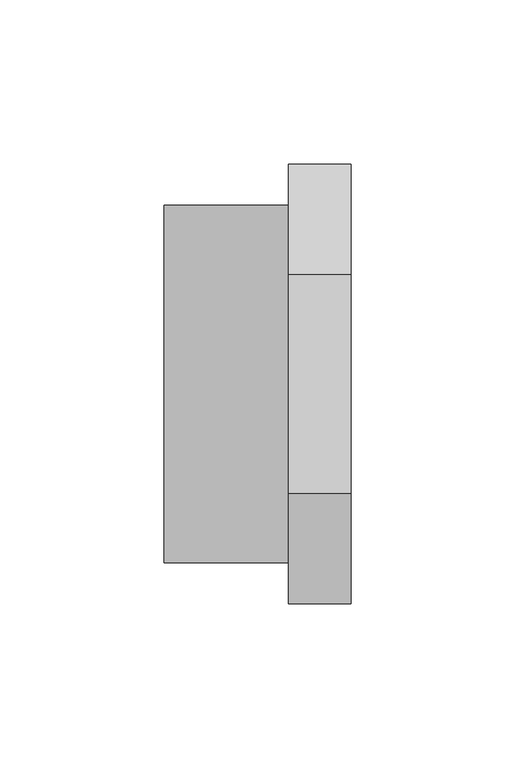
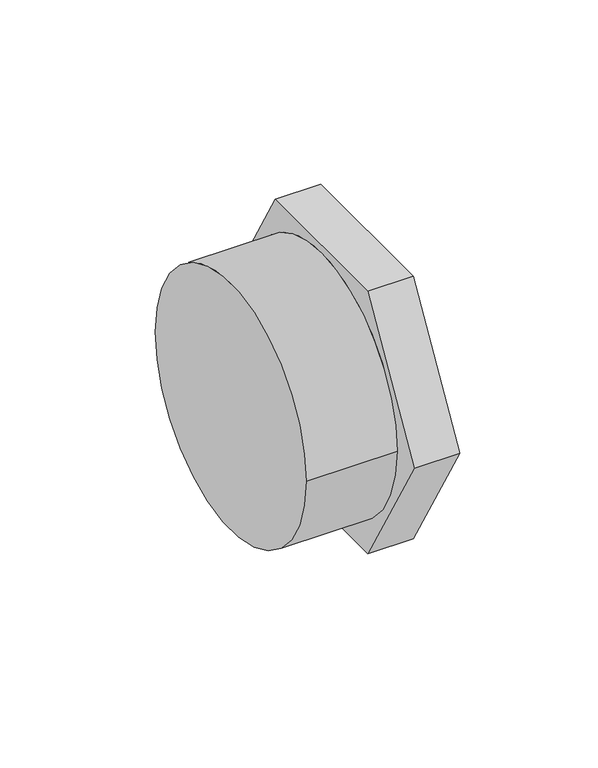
"""IFC4 building model written with IfcOpenShell, lengths in millimetres: pipe fitting geometry, 01011011 : Tampão M."""

from ifc_helpers import new_model, si_unit, point, frame, origin, origin_2d, place, context, project, spatial, circle_curve, trimmed, segment, composite_curve, outline, extrude, source, transform, mapped, element, save
from ifc_brep_helpers import plane_surface, cylinder_surface, advanced_brep


def pipe_fitting_90e61d89(model_context):
    return source(origin(), model_context, "Body", "SolidModel", [
        extrude(outline(composite_curve([segment(trimmed(circle_curve(origin_2d(), 54.525), [point((-54.525, 0.0))], [point((54.525, 0.0))], False, "CARTESIAN"), True, "CONTINUOUS"), segment(trimmed(circle_curve(origin_2d(), 54.525), [point((54.525, 0.0))], [point((-54.525, 0.0))], False, "CARTESIAN"), True, "CONTINUOUS")], self_intersect=False)), frame((0.0, 0.0, 0.0), z_axis=(1.0, 0.0, 0.0), x_axis=(0.0, 1.0, 0.0)), (0.0, 0.0, 1.0), 38.0),
        advanced_brep(
        [(57.0, -33.4863156, 58.0), (57.0, -66.9726312, 0.0), (57.0, -33.4863156, -58.0), (57.0, 33.4863156, -58.0), (57.0, 66.9726312, 0.0), (57.0, 33.4863156, 58.0), (38.0, -33.4863156, 58.0), (38.0, 33.4863156, 58.0), (38.0, 66.9726312, 0.0), (38.0, 33.4863156, -58.0), (38.0, -33.4863156, -58.0), (38.0, -66.9726312, 0.0), (38.0, 54.525, 0.0), (38.0, -54.525, 0.0), (0.0, -54.525, 0.0), (0.0, 54.525, 0.0)],
        [
            (0, 1),
            (1, 2),
            (2, 3),
            (3, 4),
            (4, 5),
            (5, 0),
            (6, 7),
            (7, 8),
            (8, 9),
            (9, 10),
            (10, 11),
            (11, 6),
            (12, 13, circle_curve(frame((38.0, 0.0, 0.0), z_axis=(1.0, 0.0, 0.0), x_axis=(0.0, 1.0, 0.0)), 54.525)),
            (13, 12, circle_curve(frame((38.0, 0.0, 0.0), z_axis=(1.0, 0.0, 0.0), x_axis=(0.0, 1.0, 0.0)), 54.525)),
            (0, 6),
            (11, 1),
            (10, 2),
            (9, 3),
            (8, 4),
            (7, 5),
            (14, 15, circle_curve(frame((0.0, 0.0, 0.0), z_axis=(-1.0, 0.0, 0.0), x_axis=(0.0, 1.0, 0.0)), 54.525)),
            (15, 14, circle_curve(frame((0.0, 0.0, 0.0), z_axis=(-1.0, 0.0, 0.0), x_axis=(0.0, 1.0, 0.0)), 54.525)),
            (14, 13),
            (12, 15),
        ],
        [
            plane_surface(frame((57.0, -33.4863156, 58.0), z_axis=(1.0, 0.0, 0.0), x_axis=(0.0, -0.500000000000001, -0.8660254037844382))),
            plane_surface(frame((38.0, -33.4863156, 58.0), z_axis=(-1.0, 0.0, 0.0), x_axis=(0.0, 0.500000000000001, 0.8660254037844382))),
            plane_surface(frame((57.0, -33.4863156, 58.0), z_axis=(0.0, -0.8660254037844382, 0.500000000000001), x_axis=(-1.0, 0.0, 0.0))),
            plane_surface(frame((57.0, -66.9726312, 0.0), z_axis=(0.0, -0.8660254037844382, -0.5000000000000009), x_axis=(-1.0, 0.0, 0.0))),
            plane_surface(frame((57.0, -33.4863156, -58.0), z_axis=(0.0, 0.0, -1.0), x_axis=(-1.0, 0.0, 0.0))),
            plane_surface(frame((57.0, 33.4863156, -58.0), z_axis=(0.0, 0.8660254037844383, -0.5000000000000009), x_axis=(-1.0, 0.0, 0.0))),
            plane_surface(frame((57.0, 66.9726312, 0.0), z_axis=(0.0, 0.8660254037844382, 0.500000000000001), x_axis=(-1.0, 0.0, 0.0))),
            plane_surface(frame((57.0, 33.4863156, 58.0), z_axis=(0.0, 0.0, 1.0), x_axis=(-1.0, 0.0, 0.0))),
            plane_surface(frame((0.0, 0.0, 0.0), z_axis=(-1.0, 0.0, 0.0), x_axis=(0.0, 0.0, 1.0))),
            cylinder_surface(frame((0.0, 0.0, 0.0), z_axis=(-1.0, 0.0, 0.0), x_axis=(0.0, 1.0, 0.0)), 54.525),
        ],
        [
            (0, [[1, 2, 3, 4, 5, 6]]),
            (1, [[7, 8, 9, 10, 11, 12], [13, 14]]),
            (2, [[-1, 15, -12, 16]]),
            (3, [[-2, -16, -11, 17]]),
            (4, [[-3, -17, -10, 18]]),
            (5, [[-4, -18, -9, 19]]),
            (6, [[-5, -19, -8, 20]]),
            (7, [[-6, -20, -7, -15]]),
            (8, [[21, 22]]),
            (9, [[-21, 23, -13, 24]]),
            (9, [[-22, -24, -14, -23]]),
        ],
    ),
    ])


if __name__ == "__main__":
    model = new_model("IFC4")
    model_context = context("Model", 3, world=origin())
    ifc_project = project(units=[si_unit("LENGTHUNIT", "METRE", prefix="MILLI")], contexts=[model_context])
    site = spatial("IfcSite", under=ifc_project)
    building = spatial("IfcBuilding", under=site)
    placement = place(None, origin())
    pipe_fitting_shape = pipe_fitting_90e61d89(model_context)
    element("IfcPipeFitting", 1, ObjectType="01011011 : Tampão M", at=placement, inside=building, context=model_context, shape_type="MappedRepresentation", body=[
        mapped(pipe_fitting_shape, transform((0.0, 0.0, 0.0), x_axis=(1.0, 0.0, 0.0), y_axis=(0.0, 1.0, 0.0), z_axis=(0.0, 0.0, 1.0))),
    ])
    save(model, "model.ifc")
